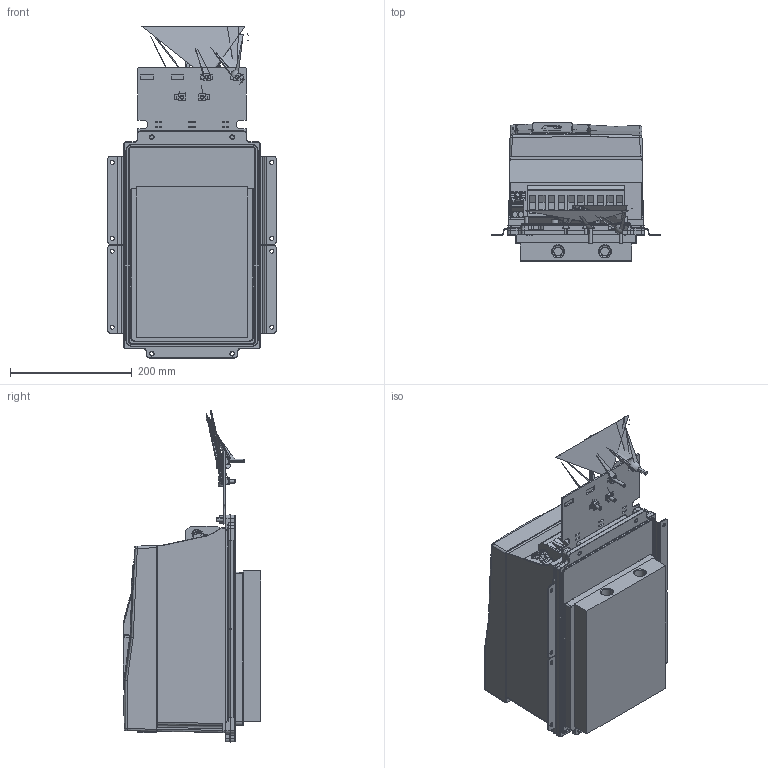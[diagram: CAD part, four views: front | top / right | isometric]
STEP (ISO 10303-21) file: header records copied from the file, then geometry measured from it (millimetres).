
FILE_DESCRIPTION (( 'STEP AP214' ), '1' );
FILE_NAME ('F6-4TK5-K001.STEP', '2020-12-10T12:30:17', ( '' ), ( '' ), 'SwSTEP 2.0', 'SolidWorks 2019', '' );
FILE_SCHEMA (( 'AUTOMOTIVE_DESIGN' ));
Length unit declared in the file: millimetre
Products named in the file (13): 10032600_000_Kundenmodell; 10035735_000_Kundenmodell; 10060692_000_Leistungsteil TK5 (Kundenmodell); 10058413_000; 10044453_000_Schirmung (Kundenmodell); F6-4TK5-K001; 10061645_000; 10061644_000_Deckel (Kundenmodell); 10060814_000; 10063070_000; 10059765_000; 10058448_000; 10059764_000_Blindabdeckung (Kundenmodell)
Assembly tree (12 placements, depth 4):
  F6-4TK5-K001
    10060692_000_Leistungsteil TK5 (Kundenmodell)
      10060814_000
    10032600_000_Kundenmodell
      10061644_000_Deckel (Kundenmodell)
        10061645_000
      10058448_000
    10035735_000_Kundenmodell
      10059764_000_Blindabdeckung (Kundenmodell)
        10059765_000
      10058413_000
    10044453_000_Schirmung (Kundenmodell)
      10063070_000
Bounding box: 277 x 226.7 x 545.5 mm (x, y, z)
Volume: 14529949.5 mm3; surface area: 923202.3 mm2
Topology: 16 solids, 31 shells, 3347 faces, 8834 edges, 5640 vertices
Faces by surface type: plane 1499, cylinder 957, bspline 545, torus 166, cone 132, sphere 48
Entity records: 131532 total; most frequent: CARTESIAN_POINT 46200, ORIENTED_EDGE 17546, DIRECTION 15220, EDGE_CURVE 8773, VERTEX_POINT 5575, AXIS2_PLACEMENT_3D 5120, LINE 4980, VECTOR 4980
